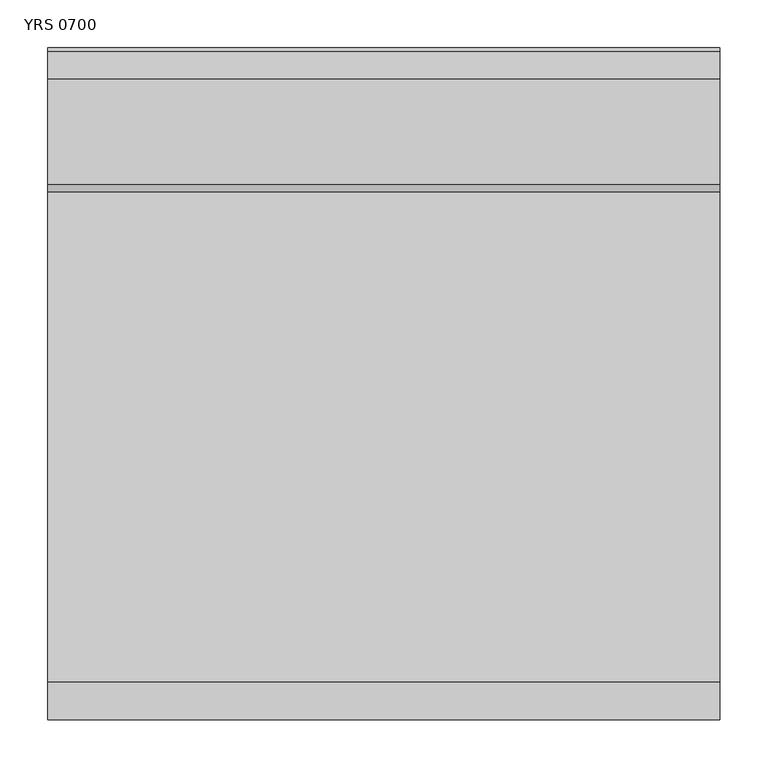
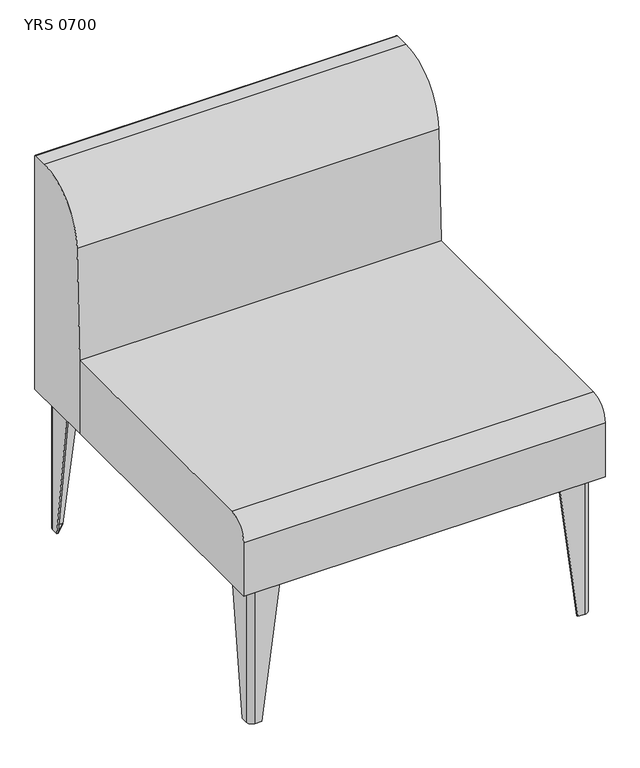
"""IFC4 building model written with IfcOpenShell, lengths in millimetres: furniture geometry, Mobiliário_Mobiliário de Escritório_LinhaYoung_Sofa Reto (Aço) - YR_Marelli : YRS 0700."""

from ifc_helpers import new_model, si_unit, point, frame, frame_2d, origin, origin_with_axes, place, context, project, spatial, polyline, circle_curve, trimmed, segment, composite_curve, outline, extrude, source, transform, mapped, element, save
from ifc_brep_helpers import plane_surface, cylinder_surface, revolved_surface, advanced_brep


def yrs_0700_28fca33c(model_context):
    return source(origin(), model_context, "Body", "SolidModel", [
        advanced_brep(
        [(20.0, 75.0, 280.0), (20.0, 25.0, 280.0), (30.0, 15.0, 280.0), (80.0, 15.0, 280.0), (80.0, 18.0, 280.0), (30.0, 18.0, 280.0), (23.0, 25.0, 280.0), (23.0, 75.0, 280.0), (20.0, 39.0, 0.0), (23.0, 39.0, 0.0), (23.0, 25.0, 0.0), (30.0, 18.0, 0.0), (44.0, 18.0, 0.0), (44.0, 15.0, 0.0), (30.0, 15.0, 0.0), (20.0, 25.0, 0.0)],
        [
            (0, 1),
            (1, 2, circle_curve(frame((30.0, 25.0, 280.0), z_axis=(0.0, 0.0, 1.0), x_axis=(0.0, -1.0, 0.0)), 10.0)),
            (2, 3),
            (3, 4),
            (4, 5),
            (5, 6, circle_curve(frame((30.0, 25.0, 280.0), z_axis=(0.0, 0.0, -1.0), x_axis=(-1.0, 0.0, 0.0)), 7.0)),
            (6, 7),
            (7, 0),
            (8, 9),
            (9, 10),
            (10, 11, circle_curve(frame((30.0, 25.0, 0.0), z_axis=(0.0, 0.0, 1.0), x_axis=(-1.0, 0.0, 0.0)), 7.0)),
            (11, 12),
            (12, 13),
            (13, 14),
            (14, 15, circle_curve(frame((30.0, 25.0, 0.0), z_axis=(0.0, 0.0, -1.0), x_axis=(0.0, -1.0, 0.0)), 10.0)),
            (15, 8),
            (15, 1),
            (0, 8),
            (14, 2),
            (13, 3),
            (12, 4),
            (11, 5),
            (10, 6),
            (9, 7),
        ],
        [
            plane_surface(frame((38.25, 33.25, 280.0), z_axis=(0.0, 0.0, 1.0), x_axis=(0.0, -1.0, 0.0))),
            plane_surface(frame((29.25, 24.25, 0.0), z_axis=(0.0, 0.0, -1.0), x_axis=(0.0, -1.0, 0.0))),
            plane_surface(frame((20.0, 32.0, 0.0), z_axis=(-1.0, 0.0, 0.0), x_axis=(0.0, -1.0, 0.0))),
            cylinder_surface(frame((30.0, 25.0, 0.0), z_axis=(0.0, 0.0, 1.0), x_axis=(0.0, -1.0, 0.0)), 10.0),
            plane_surface(frame((37.0, 15.0, 0.0), z_axis=(0.0, -1.0, 0.0), x_axis=(1.0, 0.0, 0.0))),
            plane_surface(frame((44.0, 16.5, 0.0), z_axis=(0.9918357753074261, 0.0, -0.12752174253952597), x_axis=(0.0, 1.0, 0.0))),
            plane_surface(frame((37.0, 18.0, 0.0), z_axis=(0.0, 1.0, 0.0), x_axis=(-1.0, 0.0, 0.0))),
            revolved_surface(polyline([(23.0, 25.0, 280.0), (23.0, 25.0, 0.0)]), (30.0, 25.0, 0.0), (0.0, 0.0, 1.0)),
            plane_surface(frame((23.0, 32.0, 0.0), z_axis=(1.0, 0.0, 0.0), x_axis=(0.0, 1.0, 0.0))),
            plane_surface(frame((21.5, 39.0, 0.0), z_axis=(0.0, 0.9918357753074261, -0.12752174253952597), x_axis=(-1.0, 0.0, 0.0))),
        ],
        [
            (0, [[1, 2, 3, 4, 5, 6, 7, 8]]),
            (1, [[9, 10, 11, 12, 13, 14, 15, 16]]),
            (2, [[-16, 17, -1, 18]]),
            (3, [[-15, 19, -2, -17]]),
            (4, [[-14, 20, -3, -19]]),
            (5, [[-13, 21, -4, -20]]),
            (6, [[-12, 22, -5, -21]]),
            (7, [[-11, 23, -6, -22]]),
            (8, [[-10, 24, -7, -23]]),
            (9, [[-9, -18, -8, -24]]),
        ],
    ),
        advanced_brep(
        [(680.0, 75.0, 280.0), (677.0, 75.0, 280.0), (677.0, 25.0, 280.0), (670.0, 18.0, 280.0), (620.0, 18.0, 280.0), (620.0, 15.0, 280.0), (670.0, 15.0, 280.0), (680.0, 25.0, 280.0), (680.0, 39.0, 0.0), (680.0, 25.0, 0.0), (670.0, 15.0, 0.0), (656.0, 15.0, 0.0), (656.0, 18.0, 0.0), (670.0, 18.0, 0.0), (677.0, 25.0, 0.0), (677.0, 39.0, 0.0)],
        [
            (0, 1),
            (1, 2),
            (2, 3, circle_curve(frame((670.0, 25.0, 280.0), z_axis=(0.0, 0.0, -1.0), x_axis=(0.0, -1.0, 0.0)), 7.0)),
            (3, 4),
            (4, 5),
            (5, 6),
            (6, 7, circle_curve(frame((670.0, 25.0, 280.0), z_axis=(0.0, 0.0, 1.0), x_axis=(1.0, 0.0, 0.0)), 10.0)),
            (7, 0),
            (8, 9),
            (9, 10, circle_curve(frame((670.0, 25.0, 0.0), z_axis=(0.0, 0.0, -1.0), x_axis=(1.0, 0.0, 0.0)), 10.0)),
            (10, 11),
            (11, 12),
            (12, 13),
            (13, 14, circle_curve(frame((670.0, 25.0, 0.0), z_axis=(0.0, 0.0, 1.0), x_axis=(0.0, -1.0, 0.0)), 7.0)),
            (14, 15),
            (15, 8),
            (8, 0),
            (7, 9),
            (6, 10),
            (5, 11),
            (4, 12),
            (3, 13),
            (2, 14),
            (1, 15),
        ],
        [
            plane_surface(frame((661.75, 33.25, 280.0), z_axis=(0.0, 0.0, 1.0), x_axis=(-1.0, 0.0, 0.0))),
            plane_surface(frame((670.75, 24.25, 0.0), z_axis=(0.0, 0.0, -1.0), x_axis=(-1.0, 0.0, 0.0))),
            plane_surface(frame((680.0, 32.0, 0.0), z_axis=(1.0, 0.0, 0.0), x_axis=(0.0, 1.0, 0.0))),
            cylinder_surface(frame((670.0, 25.0, 0.0), z_axis=(0.0, 0.0, 1.0), x_axis=(1.0, 0.0, 0.0)), 10.0),
            plane_surface(frame((663.0, 15.0, 0.0), z_axis=(0.0, -1.0, 0.0), x_axis=(1.0, 0.0, 0.0))),
            plane_surface(frame((656.0, 16.5, 0.0), z_axis=(-0.9918357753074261, 0.0, -0.127521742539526), x_axis=(0.0, -1.0, 0.0))),
            plane_surface(frame((663.0, 18.0, 0.0), z_axis=(0.0, 1.0, 0.0), x_axis=(-1.0, 0.0, 0.0))),
            revolved_surface(polyline([(670.0, 18.0, 280.0), (670.0, 18.0, 0.0)]), (670.0, 25.0, 0.0), (0.0, 0.0, 1.0)),
            plane_surface(frame((677.0, 32.0, 0.0), z_axis=(-1.0, 0.0, 0.0), x_axis=(0.0, -1.0, 0.0))),
            plane_surface(frame((678.5, 39.0, 0.0), z_axis=(0.0, 0.9918357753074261, -0.12752174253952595), x_axis=(-1.0, 0.0, 0.0))),
        ],
        [
            (0, [[1, 2, 3, 4, 5, 6, 7, 8]]),
            (1, [[9, 10, 11, 12, 13, 14, 15, 16]]),
            (2, [[-9, 17, -8, 18]]),
            (3, [[-10, -18, -7, 19]]),
            (4, [[-11, -19, -6, 20]]),
            (5, [[-12, -20, -5, 21]]),
            (6, [[-13, -21, -4, 22]]),
            (7, [[-14, -22, -3, 23]]),
            (8, [[-15, -23, -2, 24]]),
            (9, [[-16, -24, -1, -17]]),
        ],
    ),
        advanced_brep(
        [(20.0, 625.0, 280.0), (23.0, 625.0, 280.0), (23.0, 675.0, 280.0), (30.0, 682.0, 280.0), (80.0, 682.0, 280.0), (80.0, 685.0, 280.0), (30.0, 685.0, 280.0), (20.0, 675.0, 280.0), (20.0, 661.0, 0.0), (20.0, 675.0, 0.0), (30.0, 685.0, 0.0), (44.0, 685.0, 0.0), (44.0, 682.0, 0.0), (30.0, 682.0, 0.0), (23.0, 675.0, 0.0), (23.0, 661.0, 0.0)],
        [
            (0, 1),
            (1, 2),
            (2, 3, circle_curve(frame((30.0, 675.0, 280.0), z_axis=(0.0, 0.0, -1.0), x_axis=(0.0, 1.0, 0.0)), 7.0)),
            (3, 4),
            (4, 5),
            (5, 6),
            (6, 7, circle_curve(frame((30.0, 675.0, 280.0), z_axis=(0.0, 0.0, 1.0), x_axis=(-1.0, 0.0, 0.0)), 10.0)),
            (7, 0),
            (8, 9),
            (9, 10, circle_curve(frame((30.0, 675.0, 0.0), z_axis=(0.0, 0.0, -1.0), x_axis=(-1.0, 0.0, 0.0)), 10.0)),
            (10, 11),
            (11, 12),
            (12, 13),
            (13, 14, circle_curve(frame((30.0, 675.0, 0.0), z_axis=(0.0, 0.0, 1.0), x_axis=(0.0, 1.0, 0.0)), 7.0)),
            (14, 15),
            (15, 8),
            (8, 0),
            (7, 9),
            (6, 10),
            (5, 11),
            (4, 12),
            (3, 13),
            (2, 14),
            (1, 15),
        ],
        [
            plane_surface(frame((38.25, 666.75, 280.0), z_axis=(0.0, 0.0, 1.0), x_axis=(1.0, 0.0, 0.0))),
            plane_surface(frame((29.25, 675.75, 0.0), z_axis=(0.0, 0.0, -1.0), x_axis=(1.0, 0.0, 0.0))),
            plane_surface(frame((20.0, 668.0, 0.0), z_axis=(-1.0, 0.0, 0.0), x_axis=(0.0, -1.0, 0.0))),
            cylinder_surface(frame((30.0, 675.0, 0.0), z_axis=(0.0, 0.0, 1.0), x_axis=(-1.0, 0.0, 0.0)), 10.0),
            plane_surface(frame((37.0, 685.0, 0.0), z_axis=(0.0, 1.0, 0.0), x_axis=(-1.0, 0.0, 0.0))),
            plane_surface(frame((44.0, 683.5, 0.0), z_axis=(0.9918357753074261, 0.0, -0.12752174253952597), x_axis=(0.0, 1.0, 0.0))),
            plane_surface(frame((37.0, 682.0, 0.0), z_axis=(0.0, -1.0, 0.0), x_axis=(1.0, 0.0, 0.0))),
            revolved_surface(polyline([(30.0, 682.0, 280.0), (30.0, 682.0, 0.0)]), (30.0, 675.0, 0.0), (0.0, 0.0, 1.0)),
            plane_surface(frame((23.0, 668.0, 0.0), z_axis=(1.0, 0.0, 0.0), x_axis=(0.0, 1.0, 0.0))),
            plane_surface(frame((21.5, 661.0, 0.0), z_axis=(0.0, -0.9918357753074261, -0.127521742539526), x_axis=(1.0, 0.0, 0.0))),
        ],
        [
            (0, [[1, 2, 3, 4, 5, 6, 7, 8]]),
            (1, [[9, 10, 11, 12, 13, 14, 15, 16]]),
            (2, [[-9, 17, -8, 18]]),
            (3, [[-10, -18, -7, 19]]),
            (4, [[-11, -19, -6, 20]]),
            (5, [[-12, -20, -5, 21]]),
            (6, [[-13, -21, -4, 22]]),
            (7, [[-14, -22, -3, 23]]),
            (8, [[-15, -23, -2, 24]]),
            (9, [[-16, -24, -1, -17]]),
        ],
    ),
        advanced_brep(
        [(680.0, 625.0, 280.0), (680.0, 675.0, 280.0), (670.0, 685.0, 280.0), (620.0, 685.0, 280.0), (620.0, 682.0, 280.0), (670.0, 682.0, 280.0), (677.0, 675.0, 280.0), (677.0, 625.0, 280.0), (680.0, 661.0, 0.0), (677.0, 661.0, 0.0), (677.0, 675.0, 0.0), (670.0, 682.0, 0.0), (656.0, 682.0, 0.0), (656.0, 685.0, 0.0), (670.0, 685.0, 0.0), (680.0, 675.0, 0.0)],
        [
            (0, 1),
            (1, 2, circle_curve(frame((670.0, 675.0, 280.0), z_axis=(0.0, 0.0, 1.0), x_axis=(0.0, 1.0, 0.0)), 10.0)),
            (2, 3),
            (3, 4),
            (4, 5),
            (5, 6, circle_curve(frame((670.0, 675.0, 280.0), z_axis=(0.0, 0.0, -1.0), x_axis=(1.0, 0.0, 0.0)), 7.0)),
            (6, 7),
            (7, 0),
            (8, 9),
            (9, 10),
            (10, 11, circle_curve(frame((670.0, 675.0, 0.0), z_axis=(0.0, 0.0, 1.0), x_axis=(1.0, 0.0, 0.0)), 7.0)),
            (11, 12),
            (12, 13),
            (13, 14),
            (14, 15, circle_curve(frame((670.0, 675.0, 0.0), z_axis=(0.0, 0.0, -1.0), x_axis=(0.0, 1.0, 0.0)), 10.0)),
            (15, 8),
            (15, 1),
            (0, 8),
            (14, 2),
            (13, 3),
            (12, 4),
            (11, 5),
            (10, 6),
            (9, 7),
        ],
        [
            plane_surface(frame((661.75, 666.75, 280.0), z_axis=(0.0, 0.0, 1.0), x_axis=(0.0, 1.0, 0.0))),
            plane_surface(frame((670.75, 675.75, 0.0), z_axis=(0.0, 0.0, -1.0), x_axis=(0.0, 1.0, 0.0))),
            plane_surface(frame((680.0, 668.0, 0.0), z_axis=(1.0, 0.0, 0.0), x_axis=(0.0, 1.0, 0.0))),
            cylinder_surface(frame((670.0, 675.0, 0.0), z_axis=(0.0, 0.0, 1.0), x_axis=(0.0, 1.0, 0.0)), 10.0),
            plane_surface(frame((663.0, 685.0, 0.0), z_axis=(0.0, 1.0, 0.0), x_axis=(-1.0, 0.0, 0.0))),
            plane_surface(frame((656.0, 683.5, 0.0), z_axis=(-0.9918357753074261, 0.0, -0.127521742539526), x_axis=(0.0, -1.0, 0.0))),
            plane_surface(frame((663.0, 682.0, 0.0), z_axis=(0.0, -1.0, 0.0), x_axis=(1.0, 0.0, 0.0))),
            revolved_surface(polyline([(677.0, 675.0, 280.0), (677.0, 675.0, 0.0)]), (670.0, 675.0, 0.0), (0.0, 0.0, 1.0)),
            plane_surface(frame((677.0, 668.0, 0.0), z_axis=(-1.0, 0.0, 0.0), x_axis=(0.0, -1.0, 0.0))),
            plane_surface(frame((678.5, 661.0, 0.0), z_axis=(0.0, -0.9918357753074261, -0.127521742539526), x_axis=(1.0, 0.0, 0.0))),
        ],
        [
            (0, [[1, 2, 3, 4, 5, 6, 7, 8]]),
            (1, [[9, 10, 11, 12, 13, 14, 15, 16]]),
            (2, [[-16, 17, -1, 18]]),
            (3, [[-15, 19, -2, -17]]),
            (4, [[-14, 20, -3, -19]]),
            (5, [[-13, 21, -4, -20]]),
            (6, [[-12, 22, -5, -21]]),
            (7, [[-11, 23, -6, -22]]),
            (8, [[-10, 24, -7, -23]]),
            (9, [[-9, -18, -8, -24]]),
        ],
    ),
        extrude(outline(composite_curve([segment(polyline([(23.0, 39.0), (44.0, 18.0), (30.0, 18.0)]), True, "CONTINUOUS"), segment(trimmed(circle_curve(frame_2d((30.0, 25.0)), 7.0), [point((30.0, 18.0))], [point((23.0, 25.0))], False, "CARTESIAN"), True, "CONTINUOUS"), segment(polyline([(23.0, 25.0), (23.0, 39.0)]), True, "CONTINUOUS")], self_intersect=False)), origin_with_axes(), (0.0, 0.0, 1.0), 1.0),
        extrude(outline(composite_curve([segment(polyline([(23.0, 661.0), (23.0, 675.0)]), True, "CONTINUOUS"), segment(trimmed(circle_curve(frame_2d((30.0, 675.0)), 7.0), [point((23.0, 675.0))], [point((30.0, 682.0))], False, "CARTESIAN"), True, "CONTINUOUS"), segment(polyline([(30.0, 682.0), (44.0, 682.0), (23.0, 661.0)]), True, "CONTINUOUS")], self_intersect=False)), origin_with_axes(), (0.0, 0.0, 1.0), 1.0),
        extrude(outline(composite_curve([segment(polyline([(677.0, 39.0), (677.0, 25.0)]), True, "CONTINUOUS"), segment(trimmed(circle_curve(frame_2d((670.0, 25.0)), 7.0), [point((677.0, 25.0))], [point((670.0, 18.0))], False, "CARTESIAN"), True, "CONTINUOUS"), segment(polyline([(670.0, 18.0), (656.0, 18.0), (677.0, 39.0)]), True, "CONTINUOUS")], self_intersect=False)), origin_with_axes(), (0.0, 0.0, 1.0), 1.0),
        extrude(outline(composite_curve([segment(polyline([(677.0, 661.0), (656.0, 682.0), (670.0, 682.0)]), True, "CONTINUOUS"), segment(trimmed(circle_curve(frame_2d((670.0, 675.0)), 7.0), [point((670.0, 682.0))], [point((677.0, 675.0))], False, "CARTESIAN"), True, "CONTINUOUS"), segment(polyline([(677.0, 675.0), (677.0, 661.0)]), True, "CONTINUOUS")], self_intersect=False)), origin_with_axes(), (0.0, 0.0, 1.0), 1.0),
        extrude(outline(composite_curve([segment(trimmed(circle_curve(frame_2d((30.0, 25.0)), 7.0), [point((30.0, 18.0))], [point((23.0, 25.0))], False, "CARTESIAN"), True, "CONTINUOUS"), segment(polyline([(23.0, 25.0), (23.0, 93.0)]), True, "CONTINUOUS"), segment(trimmed(circle_curve(frame_2d((28.0, 93.0)), 5.0), [point((23.0, 93.0))], [point((28.0, 98.0))], False, "CARTESIAN"), True, "CONTINUOUS"), segment(polyline([(28.0, 98.0), (51.9545624, 98.0)]), True, "CONTINUOUS"), segment(trimmed(circle_curve(frame_2d((52.6241051, 89.931755)), 8.0959783), [point((51.9545624, 98.0))], [point((58.520382, 95.479618))], False, "CARTESIAN"), True, "CONTINUOUS"), segment(polyline([(58.520382, 95.479618), (100.479618, 53.520382)]), True, "CONTINUOUS"), segment(trimmed(circle_curve(frame_2d((94.931755, 47.6241051)), 8.0959783), [point((100.479618, 53.520382))], [point((103.0, 46.9545624))], False, "CARTESIAN"), True, "CONTINUOUS"), segment(polyline([(103.0, 46.9545624), (103.0, 23.0)]), True, "CONTINUOUS"), segment(trimmed(circle_curve(frame_2d((98.0, 23.0)), 5.0), [point((103.0, 23.0))], [point((98.0, 18.0))], False, "CARTESIAN"), True, "CONTINUOUS"), segment(polyline([(98.0, 18.0), (30.0, 18.0)]), True, "CONTINUOUS")], self_intersect=False)), frame((0.0, 0.0, 279.0), z_axis=(0.0, 0.0, 1.0), x_axis=(1.0, 0.0, 0.0)), (0.0, 0.0, 1.0), 1.0),
        extrude(outline(composite_curve([segment(polyline([(30.0, 682.0), (98.0, 682.0)]), True, "CONTINUOUS"), segment(trimmed(circle_curve(frame_2d((98.0, 677.0)), 5.0), [point((98.0, 682.0))], [point((103.0, 677.0))], False, "CARTESIAN"), True, "CONTINUOUS"), segment(polyline([(103.0, 677.0), (103.0, 653.0454376)]), True, "CONTINUOUS"), segment(trimmed(circle_curve(frame_2d((94.931755, 652.3758949)), 8.0959783), [point((103.0, 653.0454376))], [point((100.479618, 646.479618))], False, "CARTESIAN"), True, "CONTINUOUS"), segment(polyline([(100.479618, 646.479618), (58.520382, 604.520382)]), True, "CONTINUOUS"), segment(trimmed(circle_curve(frame_2d((52.6241051, 610.068245)), 8.0959783), [point((58.520382, 604.520382))], [point((51.9545624, 602.0))], False, "CARTESIAN"), True, "CONTINUOUS"), segment(polyline([(51.9545624, 602.0), (28.0, 602.0)]), True, "CONTINUOUS"), segment(trimmed(circle_curve(frame_2d((28.0, 607.0)), 5.0), [point((28.0, 602.0))], [point((23.0, 607.0))], False, "CARTESIAN"), True, "CONTINUOUS"), segment(polyline([(23.0, 607.0), (23.0, 675.0)]), True, "CONTINUOUS"), segment(trimmed(circle_curve(frame_2d((30.0, 675.0)), 7.0), [point((23.0, 675.0))], [point((30.0, 682.0))], False, "CARTESIAN"), True, "CONTINUOUS")], self_intersect=False)), frame((0.0, 0.0, 279.0), z_axis=(0.0, 0.0, 1.0), x_axis=(1.0, 0.0, 0.0)), (0.0, 0.0, 1.0), 1.0),
        extrude(outline(composite_curve([segment(polyline([(670.0, 18.0), (602.0, 18.0)]), True, "CONTINUOUS"), segment(trimmed(circle_curve(frame_2d((602.0, 23.0)), 5.0), [point((602.0, 18.0))], [point((597.0, 23.0))], False, "CARTESIAN"), True, "CONTINUOUS"), segment(polyline([(597.0, 23.0), (597.0, 46.9545624)]), True, "CONTINUOUS"), segment(trimmed(circle_curve(frame_2d((605.068245, 47.6241051)), 8.0959783), [point((597.0, 46.9545624))], [point((599.520382, 53.520382))], False, "CARTESIAN"), True, "CONTINUOUS"), segment(polyline([(599.520382, 53.520382), (641.479618, 95.479618)]), True, "CONTINUOUS"), segment(trimmed(circle_curve(frame_2d((647.3758949, 89.931755)), 8.0959783), [point((641.479618, 95.479618))], [point((648.0454376, 98.0))], False, "CARTESIAN"), True, "CONTINUOUS"), segment(polyline([(648.0454376, 98.0), (672.0, 98.0)]), True, "CONTINUOUS"), segment(trimmed(circle_curve(frame_2d((672.0, 93.0)), 5.0), [point((672.0, 98.0))], [point((677.0, 93.0))], False, "CARTESIAN"), True, "CONTINUOUS"), segment(polyline([(677.0, 93.0), (677.0, 25.0)]), True, "CONTINUOUS"), segment(trimmed(circle_curve(frame_2d((670.0, 25.0)), 7.0), [point((677.0, 25.0))], [point((670.0, 18.0))], False, "CARTESIAN"), True, "CONTINUOUS")], self_intersect=False)), frame((0.0, 0.0, 279.0), z_axis=(0.0, 0.0, 1.0), x_axis=(1.0, 0.0, 0.0)), (0.0, 0.0, 1.0), 1.0),
        extrude(outline(composite_curve([segment(trimmed(circle_curve(frame_2d((670.0, 675.0)), 7.0), [point((670.0, 682.0))], [point((677.0, 675.0))], False, "CARTESIAN"), True, "CONTINUOUS"), segment(polyline([(677.0, 675.0), (677.0, 607.0)]), True, "CONTINUOUS"), segment(trimmed(circle_curve(frame_2d((672.0, 607.0)), 5.0), [point((677.0, 607.0))], [point((672.0, 602.0))], False, "CARTESIAN"), True, "CONTINUOUS"), segment(polyline([(672.0, 602.0), (648.0454376, 602.0)]), True, "CONTINUOUS"), segment(trimmed(circle_curve(frame_2d((647.3758949, 610.068245)), 8.0959783), [point((648.0454376, 602.0))], [point((641.479618, 604.520382))], False, "CARTESIAN"), True, "CONTINUOUS"), segment(polyline([(641.479618, 604.520382), (599.520382, 646.479618)]), True, "CONTINUOUS"), segment(trimmed(circle_curve(frame_2d((605.068245, 652.3758949)), 8.0959783), [point((599.520382, 646.479618))], [point((597.0, 653.0454376))], False, "CARTESIAN"), True, "CONTINUOUS"), segment(polyline([(597.0, 653.0454376), (597.0, 677.0)]), True, "CONTINUOUS"), segment(trimmed(circle_curve(frame_2d((602.0, 677.0)), 5.0), [point((597.0, 677.0))], [point((602.0, 682.0))], False, "CARTESIAN"), True, "CONTINUOUS"), segment(polyline([(602.0, 682.0), (670.0, 682.0)]), True, "CONTINUOUS")], self_intersect=False)), frame((0.0, 0.0, 279.0), z_axis=(0.0, 0.0, 1.0), x_axis=(1.0, 0.0, 0.0)), (0.0, 0.0, 1.0), 1.0),
        extrude(outline(composite_curve([segment(polyline([(700.0, 756.802426), (700.0, 280.0), (550.0, 280.0), (550.0, 430.0), (558.2568376, 654.223651)]), True, "CONTINUOUS"), segment(trimmed(circle_curve(frame_2d((668.0, 650.1824561)), 109.8175439), [point((558.2568376, 654.223651))], [point((668.0, 760.0))], False, "CARTESIAN"), True, "CONTINUOUS"), segment(polyline([(668.0, 760.0), (696.802426, 760.0)]), True, "CONTINUOUS"), segment(trimmed(circle_curve(frame_2d((696.802426, 756.802426)), 3.197574), [point((696.802426, 760.0))], [point((700.0, 756.802426))], False, "CARTESIAN"), True, "CONTINUOUS")], self_intersect=False)), frame((0.0, 0.0, 0.0), z_axis=(1.0, 0.0, 0.0), x_axis=(0.0, 1.0, 0.0)), (0.0, 0.0, 1.0), 700.0),
        extrude(outline(composite_curve([segment(polyline([(550.0, 430.0), (550.0, 280.0), (0.0, 280.0), (0.0, 390.0)]), True, "CONTINUOUS"), segment(trimmed(circle_curve(frame_2d((40.0, 390.0)), 40.0), [point((0.0, 390.0))], [point((40.0, 430.0))], False, "CARTESIAN"), True, "CONTINUOUS"), segment(polyline([(40.0, 430.0), (550.0, 430.0)]), True, "CONTINUOUS")], self_intersect=False)), frame((0.0, 0.0, 0.0), z_axis=(1.0, 0.0, 0.0), x_axis=(0.0, 1.0, 0.0)), (0.0, 0.0, 1.0), 700.0),
    ])


if __name__ == "__main__":
    model = new_model("IFC4")
    model_context = context("Model", 3, world=origin())
    ifc_project = project(units=[si_unit("LENGTHUNIT", "METRE", prefix="MILLI")], contexts=[model_context])
    site = spatial("IfcSite", under=ifc_project)
    building = spatial("IfcBuilding", under=site)
    placement = place(None, origin())
    yrs_0700_shape = yrs_0700_28fca33c(model_context)
    element("IfcFurniture", 1, ObjectType="Mobiliário_Mobiliário de Escritório_LinhaYoung_Sofa Reto (Aço) - YR_Marelli : YRS 0700", at=placement, inside=building, context=model_context, shape_type="MappedRepresentation", body=[
        mapped(yrs_0700_shape, transform((0.0, 0.0, 0.0), x_axis=(1.0, 0.0, 0.0), y_axis=(0.0, 1.0, 0.0), z_axis=(0.0, 0.0, 1.0))),
    ])
    save(model, "model.ifc")
